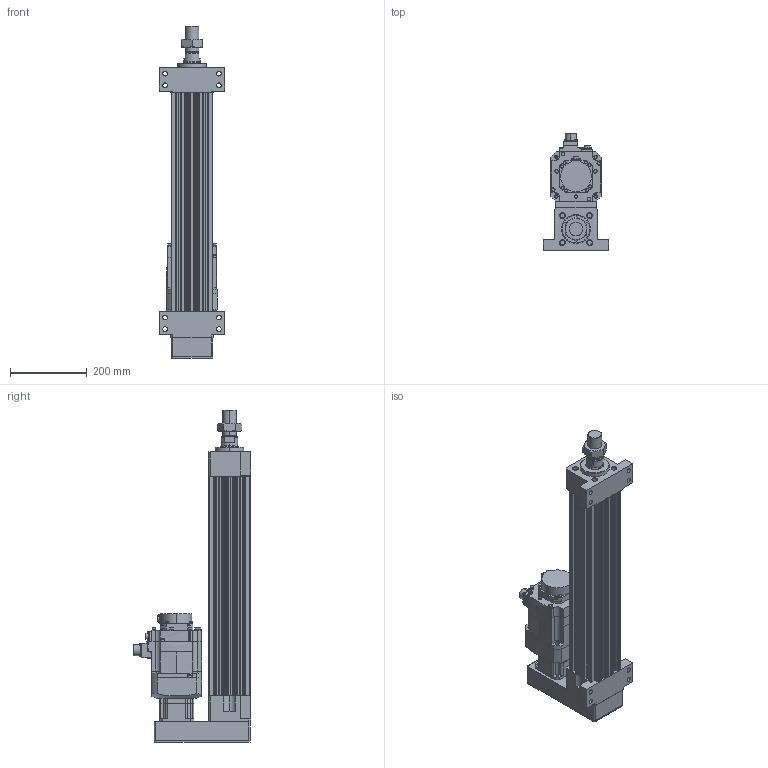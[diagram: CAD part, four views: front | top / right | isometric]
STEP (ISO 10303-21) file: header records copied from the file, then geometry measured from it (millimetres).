
FILE_DESCRIPTION (( 'STEP AP203' ), '1' );
FILE_NAME ('HES110NS(HS)-P400-W010G00-M-FFB.STEP', '2026-06-10T05:52:41', ( 'tms' ), ( '' ), 'SwSTEP 2.0', 'SolidWorks 2013', '' );
FILE_SCHEMA (( 'CONFIG_CONTROL_DESIGN' ));
Length unit declared in the file: millimetre
Products named in the file (8): HG-SR102B; HES110-FFB-400; HES110NS(HS)-P400-W010G00-M-FFB; HES110-P-G90; M36X1.5P; AB0902; HES110-M-ROD-400; AB0901
Assembly tree (7 placements, depth 2):
  HES110NS(HS)-P400-W010G00-M-FFB
    HES110-FFB-400
    HES110-M-ROD-400
    M36X1.5P
    HES110-P-G90
    AB0901
    AB0902
    HG-SR102B
Bounding box: 170 x 304.99 x 863 mm (x, y, z)
Volume: 8379103.4 mm3; surface area: 1090698.9 mm2
Topology: 5 solids, 12 shells, 1157 faces, 2938 edges, 1909 vertices
Faces by surface type: cylinder 550, plane 517, cone 76, bspline 10, torus 4
Entity records: 37070 total; most frequent: CARTESIAN_POINT 7324, DIRECTION 6373, ORIENTED_EDGE 5832, EDGE_CURVE 2926, AXIS2_PLACEMENT_3D 2382, VERTEX_POINT 1909, LINE 1609, VECTOR 1609
